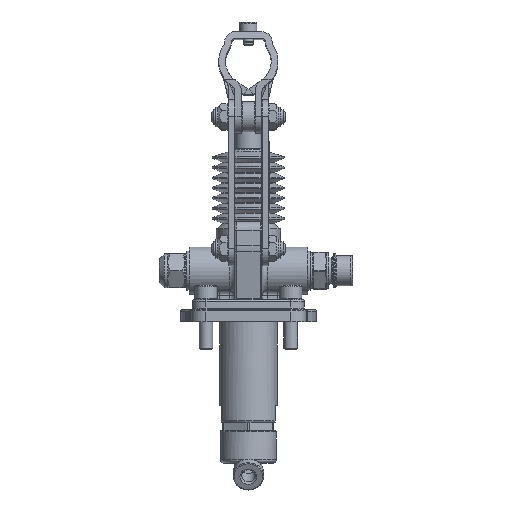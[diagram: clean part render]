
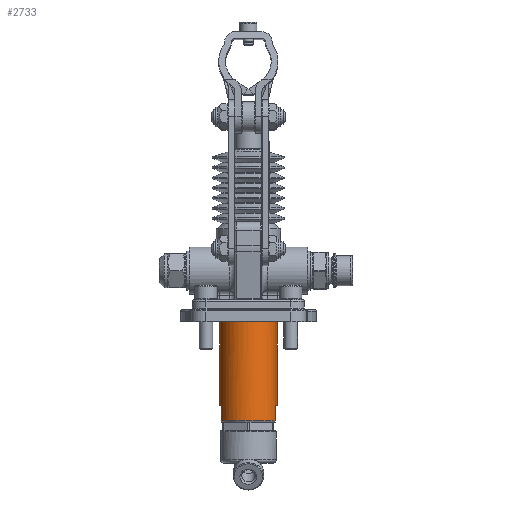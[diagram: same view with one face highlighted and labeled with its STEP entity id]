
A CAD part, left-side view. The second image highlights one B-rep face of the part: STEP entity #2733.
In plain terms, the highlighted cylindrical face has radius 17 mm (diameter 34 mm), a full revolution.
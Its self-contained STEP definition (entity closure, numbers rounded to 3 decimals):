
#2398=CARTESIAN_POINT('',(64.745,50.,-50.5));
#2399=VERTEX_POINT('',#2398);
#2400=CARTESIAN_POINT('',(53.255,50.,-50.5));
#2401=VERTEX_POINT('',#2400);
#2402=CARTESIAN_POINT('',(59.,34.,-50.5));
#2403=DIRECTION('',(0.0,0.0,1.0));
#2404=DIRECTION('',(-1.0,0.0,0.0));
#2405=AXIS2_PLACEMENT_3D('',#2402,#2403,#2404);
#2406=CIRCLE('',#2405,17.0);
#2407=EDGE_CURVE('',#2399,#2401,#2406,.T.);
#2423=CARTESIAN_POINT('',(53.255,50.,-59.5));
#2424=VERTEX_POINT('',#2423);
#2438=CARTESIAN_POINT('',(53.255,50.,-50.5));
#2439=DIRECTION('',(0.0,0.0,-1.0));
#2440=VECTOR('',#2439,9.0);
#2441=LINE('',#2438,#2440);
#2442=EDGE_CURVE('',#2401,#2424,#2441,.T.);
#2445=CARTESIAN_POINT('',(64.745,50.,-59.5));
#2446=VERTEX_POINT('',#2445);
#2447=CARTESIAN_POINT('',(64.745,50.,-59.5));
#2448=DIRECTION('',(0.0,0.0,1.0));
#2449=VECTOR('',#2448,9.0);
#2450=LINE('',#2447,#2449);
#2451=EDGE_CURVE('',#2446,#2399,#2450,.T.);
#2475=CARTESIAN_POINT('',(64.745,18.,-50.5));
#2476=VERTEX_POINT('',#2475);
#2477=CARTESIAN_POINT('',(64.745,18.,-59.5));
#2478=VERTEX_POINT('',#2477);
#2479=CARTESIAN_POINT('',(64.745,18.,-50.5));
#2480=DIRECTION('',(0.0,0.0,-1.0));
#2481=VECTOR('',#2480,9.0);
#2482=LINE('',#2479,#2481);
#2483=EDGE_CURVE('',#2476,#2478,#2482,.T.);
#2485=CARTESIAN_POINT('',(53.255,18.,-50.5));
#2486=VERTEX_POINT('',#2485);
#2493=CARTESIAN_POINT('',(53.255,18.,-59.5));
#2494=VERTEX_POINT('',#2493);
#2495=CARTESIAN_POINT('',(53.255,18.,-59.5));
#2496=DIRECTION('',(0.0,0.0,1.0));
#2497=VECTOR('',#2496,9.0);
#2498=LINE('',#2495,#2497);
#2499=EDGE_CURVE('',#2494,#2486,#2498,.T.);
#2536=CARTESIAN_POINT('',(59.,34.,-50.5));
#2537=DIRECTION('',(0.0,0.0,1.0));
#2538=DIRECTION('',(-1.0,0.0,0.0));
#2539=AXIS2_PLACEMENT_3D('',#2536,#2537,#2538);
#2540=CIRCLE('',#2539,17.0);
#2541=EDGE_CURVE('',#2486,#2476,#2540,.T.);
#2553=CARTESIAN_POINT('',(59.,34.,-59.5));
#2554=DIRECTION('',(0.0,0.0,-1.0));
#2555=DIRECTION('',(-1.0,0.0,0.0));
#2556=AXIS2_PLACEMENT_3D('',#2553,#2554,#2555);
#2557=CIRCLE('',#2556,17.0);
#2558=EDGE_CURVE('',#2446,#2478,#2557,.T.);
#2697=CARTESIAN_POINT('',(59.,34.,-59.5));
#2698=DIRECTION('',(0.0,0.0,-1.0));
#2699=DIRECTION('',(-1.0,0.0,0.0));
#2700=AXIS2_PLACEMENT_3D('',#2697,#2698,#2699);
#2701=CIRCLE('',#2700,17.0);
#2702=EDGE_CURVE('',#2494,#2424,#2701,.T.);
#2707=CARTESIAN_POINT('',(59.,34.,-60.5));
#2708=DIRECTION('',(0.,0.,1.0));
#2709=DIRECTION('',(-1.0,0.0,0.0));
#2710=AXIS2_PLACEMENT_3D('',#2707,#2708,#2709);
#2711=CYLINDRICAL_SURFACE('',#2710,17.0);
#2712=CARTESIAN_POINT('',(76.,34.,1.25));
#2713=VERTEX_POINT('',#2712);
#2714=CARTESIAN_POINT('',(59.,34.,1.25));
#2715=DIRECTION('',(0.0,0.0,-1.0));
#2716=DIRECTION('',(-1.0,0.0,0.0));
#2717=AXIS2_PLACEMENT_3D('',#2714,#2715,#2716);
#2718=CIRCLE('',#2717,17.0);
#2719=EDGE_CURVE('',#2713,#2713,#2718,.T.);
#2720=ORIENTED_EDGE('',*,*,#2719,.T.);
#2721=EDGE_LOOP('',(#2720));
#2722=FACE_OUTER_BOUND('',#2721,.T.);
#2723=ORIENTED_EDGE('',*,*,#2442,.T.);
#2724=ORIENTED_EDGE('',*,*,#2702,.F.);
#2725=ORIENTED_EDGE('',*,*,#2499,.T.);
#2726=ORIENTED_EDGE('',*,*,#2541,.T.);
#2727=ORIENTED_EDGE('',*,*,#2483,.T.);
#2728=ORIENTED_EDGE('',*,*,#2558,.F.);
#2729=ORIENTED_EDGE('',*,*,#2451,.T.);
#2730=ORIENTED_EDGE('',*,*,#2407,.T.);
#2731=EDGE_LOOP('',(#2723,#2724,#2725,#2726,#2727,#2728,#2729,#2730));
#2732=FACE_BOUND('',#2731,.T.);
#2733=ADVANCED_FACE('',(#2722,#2732),#2711,.T.);
